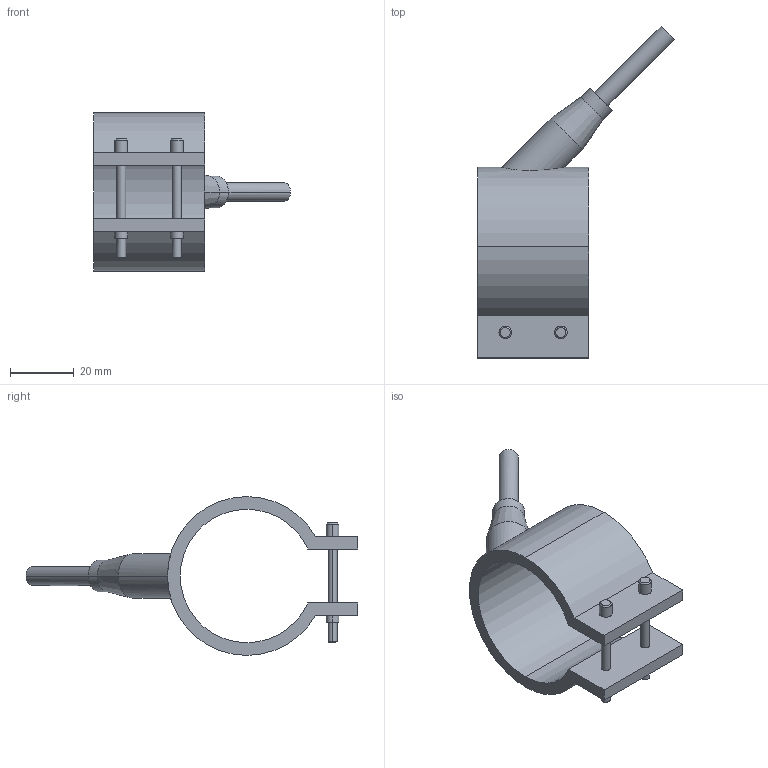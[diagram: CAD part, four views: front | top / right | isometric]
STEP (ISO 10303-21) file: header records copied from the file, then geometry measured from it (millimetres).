
FILE_DESCRIPTION(('CATIA V5 STEP Exchange'),'2;1');
FILE_NAME('C:\Users\Utente\Desktop\IO LAVORO\3D X SITO CF\X SITO\PLASTICA\RF1\29042035.stp','2021-03-27T09:38:25+00:00',('none'),('none'),'CATIA Version 5 Release 20 GA (IN-10)','CATIA V5 STEP AP203','none');
FILE_SCHEMA(('CONFIG_CONTROL_DESIGN'));
Length unit declared in the file: millimetre
Products named in the file (1): 29042035
Bounding box: 62.05 x 104.55 x 50 mm (x, y, z)
Volume: 26506.1 mm3; surface area: 14325.7 mm2
Topology: 1 solids, 1 shells, 54 faces, 123 edges, 79 vertices
Faces by surface type: cylinder 28, plane 16, cone 10
Entity records: 1735 total; most frequent: CARTESIAN_POINT 503, ORIENTED_EDGE 246, DIRECTION 213, EDGE_CURVE 123, AXIS2_PLACEMENT_3D 106, VERTEX_POINT 79, EDGE_LOOP 66, VECTOR 56
